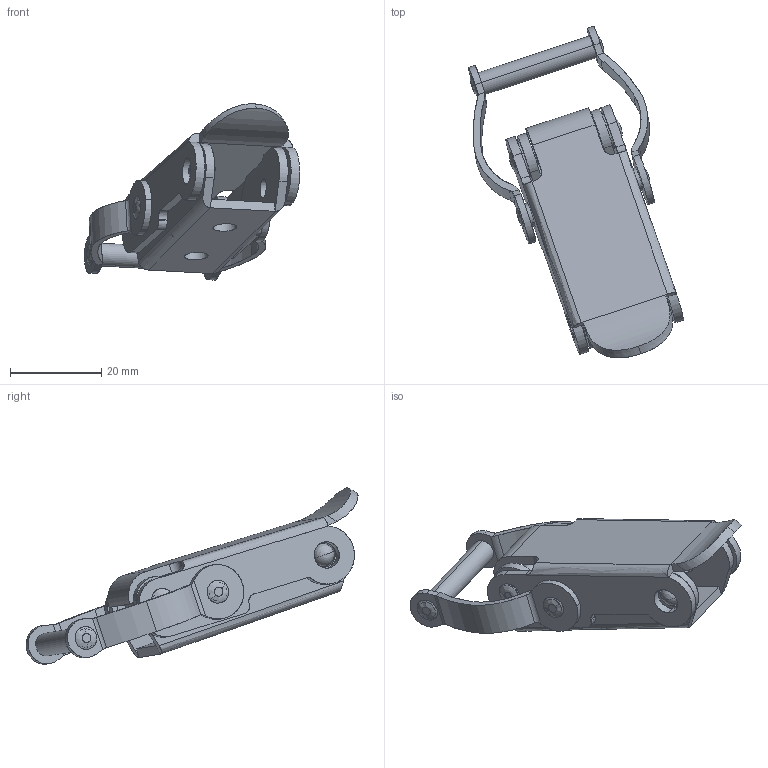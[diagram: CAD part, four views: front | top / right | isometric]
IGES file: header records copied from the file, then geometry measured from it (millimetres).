
Start section: SolidWorks IGES file using analytic representation for surfaces
Global section: file name: C:\Users\cbrechard\Desktop\GE 2036.IGS; native system: SolidWorks 2017; preprocessor: SolidWorks 2017; author: cbrechard; date: 190909.143000; units: millimetre
Bounding box: 47.29 x 72.88 x 38.72 mm (x, y, z)
Surface area: 12837.1 mm2 (no closed solid volume)
Topology: 0 solids, 0 shells, 274 faces, 4506 edges, 4475 vertices
Faces by surface type: revolution 163, bspline 111
